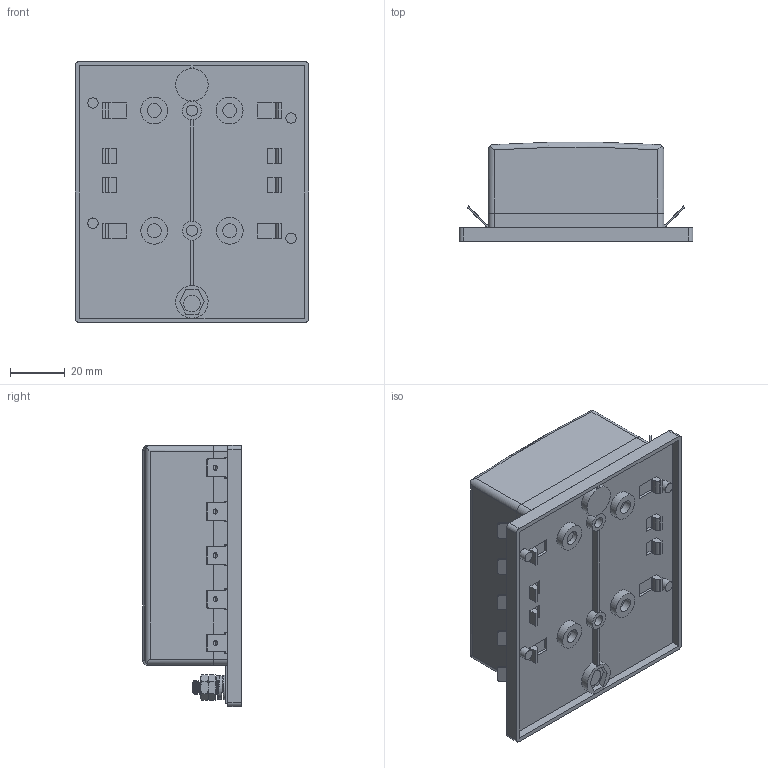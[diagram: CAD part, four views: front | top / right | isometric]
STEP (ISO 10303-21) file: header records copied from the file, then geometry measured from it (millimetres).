
FILE_DESCRIPTION(/* description */ (''),/* implementation_level */ '2;1');
FILE_NAME(/* name */ 'BLR-310.stp',/* time_stamp */ '2023-12-08T11:06:52-08:00',/* author */ ('RaniahC'),/* organization */ (''),/* preprocessor_version */ 'ST-DEVELOPER v19.2',/* originating_system */ 'Autodesk Inventor 2024',/* authorisation */ '');
FILE_SCHEMA (('AUTOMOTIVE_DESIGN { 1 0 10303 214 3 1 1 }'));
Length unit declared in the file: inch
Products named in the file (11): BLR-I-310-G; BLOCK; plate2; terminal; terminal_MIR2; STUD; HEX NUT; LOCK WASHER; WASHER; cover; BLR-310 updated
Assembly tree (19 placements, depth 2):
  BLR-I-310-G
    BLOCK
    plate2
    terminal  x5
    terminal_MIR2  x5
    STUD
    HEX NUT  x2
    LOCK WASHER
    WASHER
    cover
    BLR-310 updated
Bounding box: 85.09 x 36.01 x 95 mm (x, y, z)
Volume: 108543.9 mm3; surface area: 72890.5 mm2
Topology: 27 solids, 27 shells, 1365 faces, 3535 edges, 2300 vertices
Faces by surface type: plane 854, bspline 220, cylinder 200, cone 64, torus 23, sphere 4
Full cylindrical faces by diameter (mm): 1.905 x10, 3.769 x16, 3.795 x2, 3.8 x4, 4 x2, 4.801 x17, 4.826 x6, 4.953 x1, 5.08 x9, 8.992 x1, 9.779 x8
Entity records: 43543 total; most frequent: CARTESIAN_POINT 15023, ORIENTED_EDGE 6228, DIRECTION 4990, EDGE_CURVE 3114, LINE 2166, VECTOR 2166, VERTEX_POINT 2029, AXIS2_PLACEMENT_3D 1412
